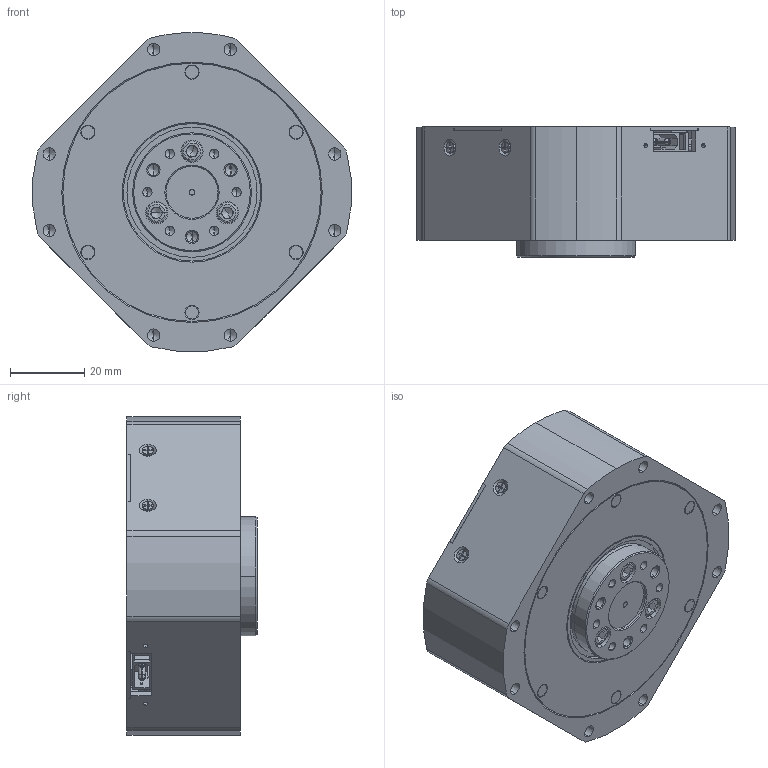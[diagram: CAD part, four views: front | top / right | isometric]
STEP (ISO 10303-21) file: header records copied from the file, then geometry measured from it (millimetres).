
FILE_DESCRIPTION (( 'STEP AP203' ), '1' );
FILE_NAME ('HTPW-7507-02-DNE.STEP', '2025-12-24T08:56:36', ( '' ), ( '' ), 'SwSTEP 2.0', 'SolidWorks 2024', '' );
FILE_SCHEMA (( 'CONFIG_CONTROL_DESIGN' ));
Length unit declared in the file: millimetre
Products named in the file (11): 7256-电机盖-1.3; 3D_双编-7256-V1.1.0722_2025-07-30; 7256-外壳-1.2; m2-10-3十字沉头螺丝; 7507-02输出编码器销-1.2_35.5; 7507-一级7速比输出盘-1.2; 30-37-4-6706zz; 7535-02-一级7速比内齿-1.2; HTPW-7507-02-DNE; m4-20-5.5杯头内六角螺丝; 铆钉
Assembly tree (36 placements, depth 2):
  HTPW-7507-02-DNE
    7256-外壳-1.2
    3D_双编-7256-V1.1.0722_2025-07-30
    7256-电机盖-1.3
    m2-10-3十字沉头螺丝  x8
    7535-02-一级7速比内齿-1.2
    7507-一级7速比输出盘-1.2
    30-37-4-6706zz
    7507-02输出编码器销-1.2_35.5
    m4-20-5.5杯头内六角螺丝  x3
    铆钉  x18
Bounding box: 85.69 x 35 x 85.84 mm (x, y, z)
Volume: 44549.2 mm3; surface area: 58014.6 mm2
Topology: 38 solids, 38 shells, 3104 faces, 8436 edges, 5486 vertices
Faces by surface type: cylinder 1688, plane 817, bspline 376, cone 185, torus 22, sphere 16
Entity records: 100172 total; most frequent: CARTESIAN_POINT 23706, ORIENTED_EDGE 15672, DIRECTION 15449, EDGE_CURVE 7836, AXIS2_PLACEMENT_3D 5902, VERTEX_POINT 5171, EDGE_LOOP 3715, LINE 3645
